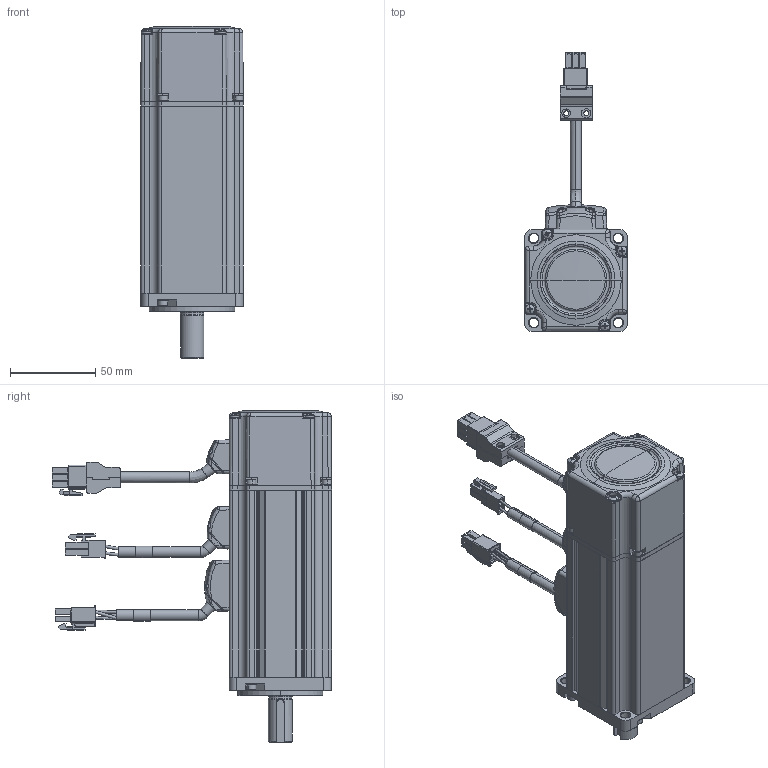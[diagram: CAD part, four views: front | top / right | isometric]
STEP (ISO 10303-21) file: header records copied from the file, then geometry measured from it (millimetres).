
FILE_DESCRIPTION (( 'STEP AP203' ), '1' );
FILE_NAME ('4613150000249-A.STEP', '2016-07-11T06:08:45', ( '' ), ( '' ), 'SwSTEP 2.0', 'SolidWorks 2012', '' );
FILE_SCHEMA (( 'CONFIG_CONTROL_DESIGN' ));
Length unit declared in the file: millimetre
Products named in the file (1): 4613150000249-A
Bounding box: 60 x 163.47 x 194.5 mm (x, y, z)
Surface area: 72427.8 mm2 (no closed solid volume)
Topology: 0 solids, 50 shells, 1337 faces, 4023 edges, 2683 vertices
Faces by surface type: plane 608, cylinder 348, bspline 166, cone 118, torus 79, sphere 18
Entity records: 51558 total; most frequent: CARTESIAN_POINT 16458, DIRECTION 7204, ORIENTED_EDGE 6863, EDGE_CURVE 4019, VERTEX_POINT 2683, AXIS2_PLACEMENT_3D 2438, LINE 2328, VECTOR 2328
